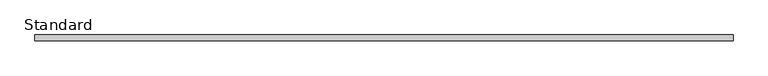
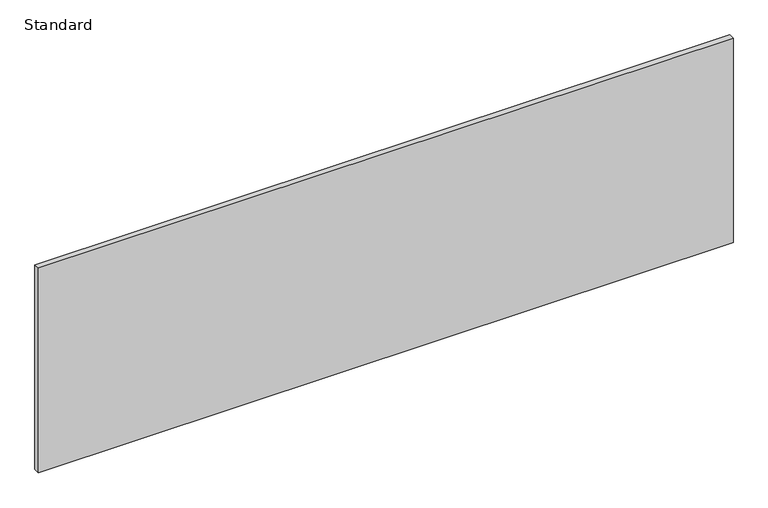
"""IFC4 building model written with IfcOpenShell, lengths in millimetres: furniture geometry, X_Locker-Duracube-Panel : Standard."""

from ifc_helpers import new_model, si_unit, frame, origin, place, context, project, spatial, polyline, outline, extrude, source, transform, mapped, element, save


def standard_c490a989(model_context):
    return source(origin(), model_context, "Body", "SweptSolid", [
        extrude(outline(polyline([(843.7003264, -13.0), (-754.2996736, -13.0), (-754.2996736, 0.0), (843.7003264, 0.0), (843.7003264, -13.0)])), frame((0.0, 0.0, 1.0), z_axis=(0.0, 0.0, 1.0), x_axis=(1.0, 0.0, 0.0)), (0.0, 0.0, 1.0), 498.0),
    ])


if __name__ == "__main__":
    model = new_model("IFC4")
    model_context = context("Model", 3, world=origin())
    ifc_project = project(units=[si_unit("LENGTHUNIT", "METRE", prefix="MILLI")], contexts=[model_context])
    site = spatial("IfcSite", under=ifc_project)
    building = spatial("IfcBuilding", under=site)
    placement = place(None, origin())
    standard_shape = standard_c490a989(model_context)
    element("IfcFurniture", 1, ObjectType="X_Locker-Duracube-Panel : Standard", at=placement, inside=building, context=model_context, shape_type="MappedRepresentation", body=[
        mapped(standard_shape, transform((0.0, 0.0, 0.0), x_axis=(1.0, 0.0, 0.0), y_axis=(0.0, 1.0, 0.0), z_axis=(0.0, 0.0, 1.0))),
    ])
    save(model, "model.ifc")
